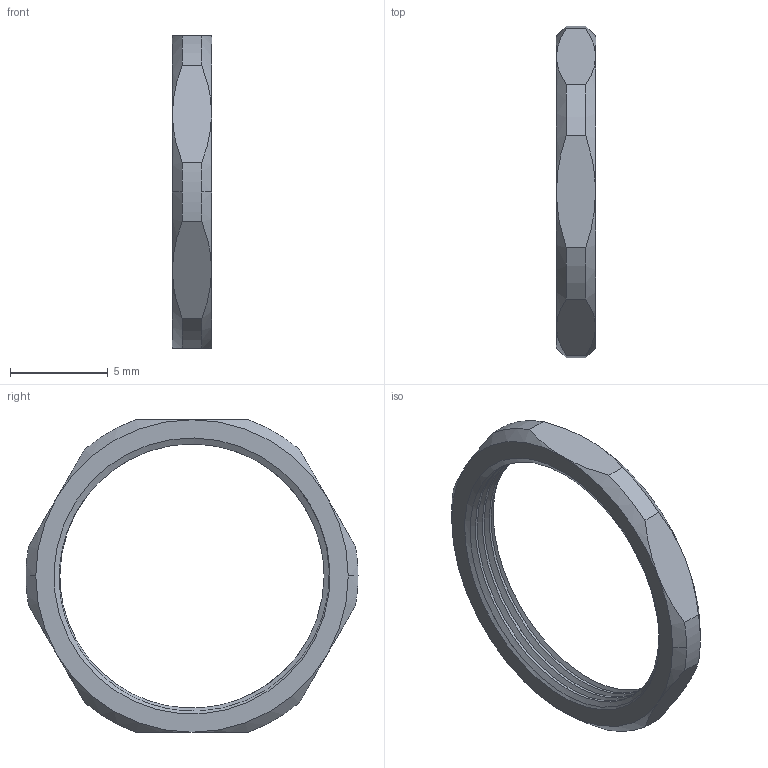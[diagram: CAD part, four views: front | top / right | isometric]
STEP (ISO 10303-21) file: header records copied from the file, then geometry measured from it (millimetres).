
FILE_DESCRIPTION(('Creo Elements/Direct Modeling STEP Export'),'2;1');
FILE_NAME('H20-0018-CL903-00_LN-WS14MBS.stp','2021-10-19T18:27:00',(''),(''),'Creo Elements/Direct Modeling STEP processor for AP214 (Solid Model)','Creo Elements/Direct Modeling 20.3B 05-Dec-2020 (C) Parametric Technology GmbH','');
FILE_SCHEMA(('AUTOMOTIVE_DESIGN { 1 0 10303 214 1 1 1 1 }'));
Length unit declared in the file: millimetre
Products named in the file (1): H20-0018-CL903-00_LN-WS14MBS.1
Bounding box: 2 x 17 x 16 mm (x, y, z)
Volume: 126.2 mm3; surface area: 356.3 mm2
Topology: 1 solids, 1 shells, 51 faces, 131 edges, 82 vertices
Faces by surface type: cylinder 23, cone 18, plane 8, bspline 2
Entity records: 4504 total; most frequent: CARTESIAN_POINT 3567, ORIENTED_EDGE 262, EDGE_CURVE 131, DIRECTION 102, VERTEX_POINT 82, EDGE_LOOP 53, FACE_OUTER_BOUND 51, ADVANCED_FACE 51
